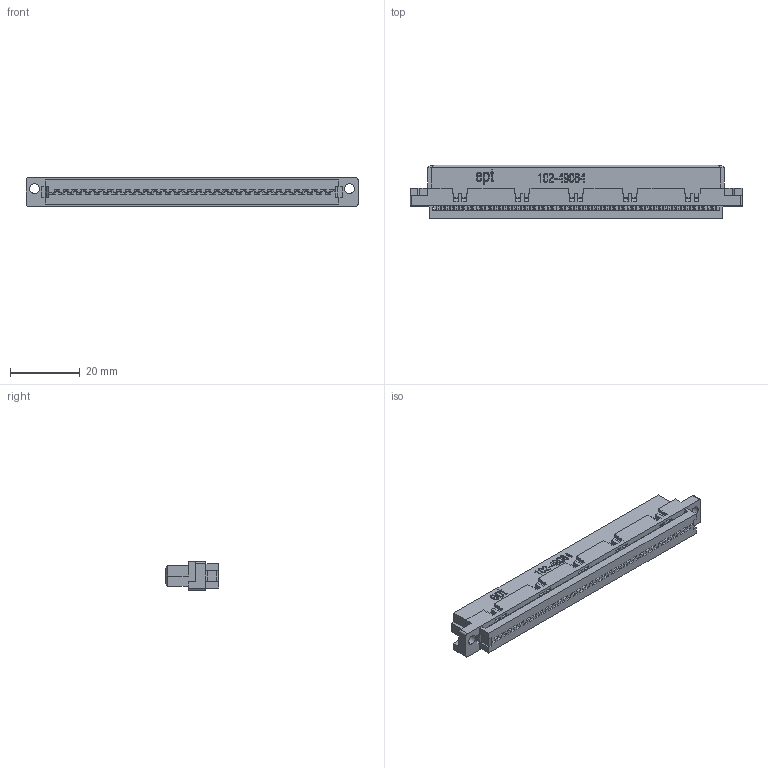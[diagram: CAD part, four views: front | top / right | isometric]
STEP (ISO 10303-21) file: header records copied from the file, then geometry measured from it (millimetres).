
FILE_DESCRIPTION (( 'STEP AP214' ), '1' );
FILE_NAME ('102-49064_C.STEP', '2016-07-08T08:21:04', ( '' ), ( '' ), 'SwSTEP 2.0', 'SolidWorks 2014', '' );
FILE_SCHEMA (( 'AUTOMOTIVE_DESIGN' ));
Length unit declared in the file: millimetre
Products named in the file (1): 102-49064_C
Bounding box: 94.9 x 15.2 x 8.1 mm (x, y, z)
Volume: 7661.8 mm3; surface area: 9050.2 mm2
Topology: 2 solids, 2 shells, 3527 faces, 9934 edges, 6517 vertices
Faces by surface type: plane 3052, bspline 275, cylinder 200
Entity records: 121785 total; most frequent: CARTESIAN_POINT 31750, ORIENTED_EDGE 19868, DIRECTION 16162, EDGE_CURVE 9934, VECTOR 8856, LINE 8856, VERTEX_POINT 6517, EDGE_LOOP 3937
